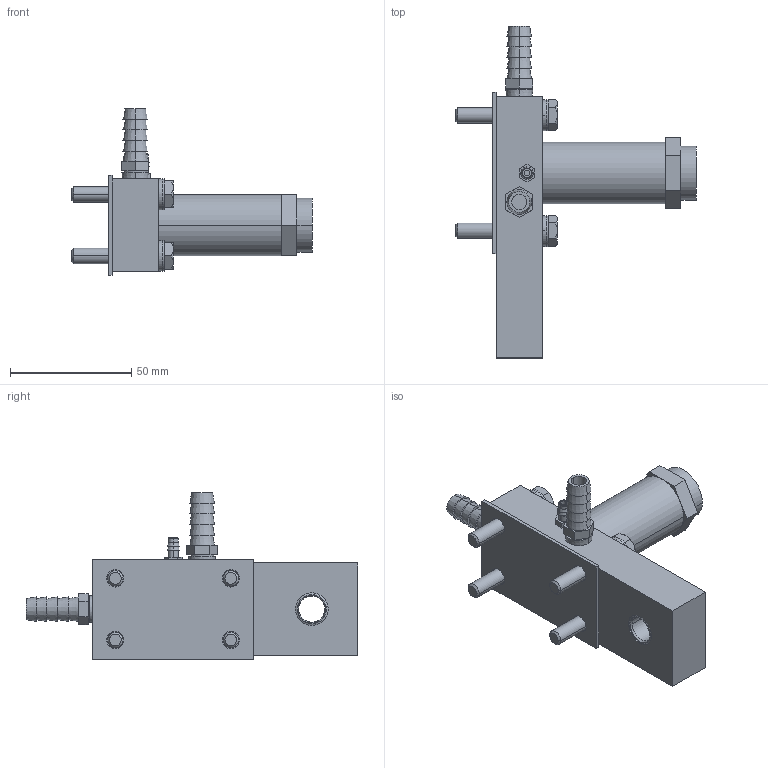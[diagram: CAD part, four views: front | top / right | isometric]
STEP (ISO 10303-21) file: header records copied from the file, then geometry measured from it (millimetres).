
FILE_DESCRIPTION((''),'2;1');
FILE_NAME('XJ2_ASM','2017-08-24T',('jennifer.elliott'),('CenterLine (Windsor) Ltd - Automation Components Division'),'PRO/ENGINEER BY PARAMETRIC TECHNOLOGY CORPORATION, 2015030','PRO/ENGINEER BY PARAMETRIC TECHNOLOGY CORPORATION, 2015030','');
FILE_SCHEMA(('AUTOMOTIVE_DESIGN { 1 0 10303 214 1 1 1 1 }'));
Length unit declared in the file: inch
Products named in the file (22): PRT1264; PRT1265; PRT1266; PRT1267; PRT1268; PRT1269; PRT1270; PRT1271; PRT1272; PRT1273; PRT1274; PRT1275; PRT1276; PRT1277; PRT1278; PRT1279; PRT1280; PRT1281; PRT1282; PRT1283; PRT1284; XJ2_ASM
Assembly tree (21 placements, depth 2):
  XJ2_ASM
    PRT1264
    PRT1265
    PRT1266
    PRT1267
    PRT1268
    PRT1269
    PRT1270
    PRT1271
    PRT1272
    PRT1273
    PRT1274
    PRT1275
    PRT1276
    PRT1277
    PRT1278
    PRT1279
    PRT1280
    PRT1281
    PRT1282
    PRT1283
    PRT1284
Bounding box: 99.25 x 136.91 x 68.64 mm (x, y, z)
Volume: 118722.5 mm3; surface area: 43625.4 mm2
Topology: 21 solids, 21 shells, 283 faces, 606 edges, 390 vertices
Faces by surface type: plane 123, cylinder 88, cone 68, torus 4
Entity records: 9359 total; most frequent: CARTESIAN_POINT 1638, DIRECTION 1492, ORIENTED_EDGE 1212, AXIS2_PLACEMENT_3D 608, EDGE_CURVE 606, VERTEX_POINT 390, EDGE_LOOP 350, FACE_OUTER_BOUND 283
